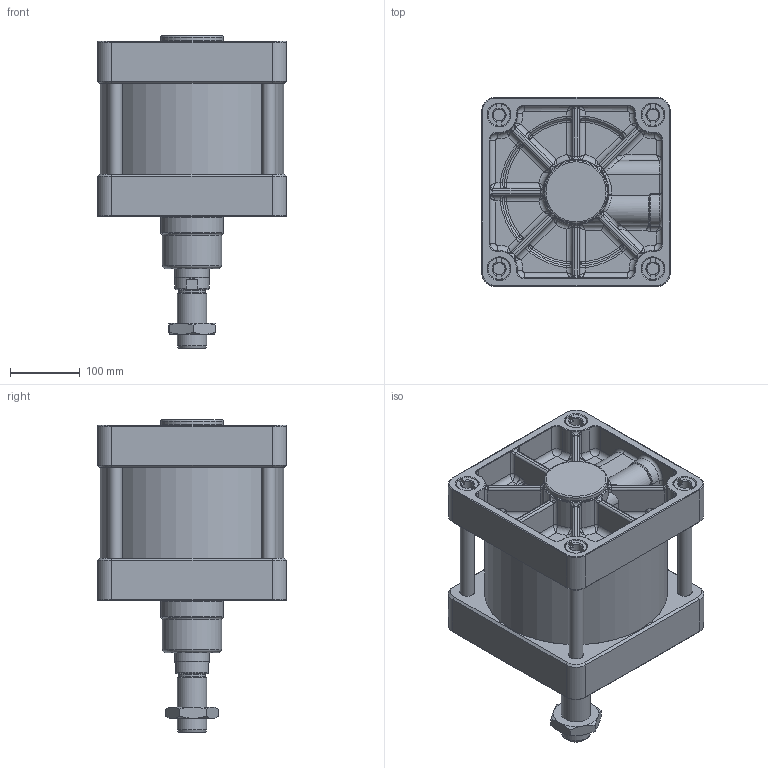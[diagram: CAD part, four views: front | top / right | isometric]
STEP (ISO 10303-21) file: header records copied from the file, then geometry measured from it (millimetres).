
FILE_DESCRIPTION(/* description */ ('Unknown'),/* implementation_level */ '2;1');
FILE_NAME(/* name */ 'UDM 250_50',/* time_stamp */ '2024-08-15T13:47:20+02:00',/* author */ ('Unknown'),/* organization */ ('Unknown'),/* preprocessor_version */ 'ST-DEVELOPER v16.7',/* originating_system */ 'Solid Edge',/* authorisation */ 'Unknown');
FILE_SCHEMA (('AUTOMOTIVE_DESIGN {1 0 10303 214 3 1 1}'));
Length unit declared in the file: millimetre
Products named in the file (7): UDM 250_50; Kit_1; Profilrohr 250_50; Zugstange 250_50; Kit_2; Mutter; Kolbenstange 250_50
Assembly tree (9 placements, depth 2):
  UDM 250_50
    Kit_1
    Profilrohr 250_50
    Zugstange 250_50  x4
    Kit_2
    Mutter
    Kolbenstange 250_50
Bounding box: 270 x 270 x 447 mm (x, y, z)
Volume: 10269325.6 mm3; surface area: 1169895.5 mm2
Topology: 9 solids, 13 shells, 1177 faces, 2799 edges, 1549 vertices
Faces by surface type: cylinder 364, plane 267, torus 191, bspline 186, cone 139, sphere 30
Full cylindrical faces by diameter (mm): 8 x2, 10 x2, 11 x2, 11.2 x2, 16 x2, 17.28 x8, 17.294 x8, 20 x4, 20.5 x8, 24 x2, 25 x2, 30.28 x2, 30.291 x2, 32 x8, 38.8 x1, 39.835 x1, 40 x2, 42 x1, 49 x1, 50 x3, 50.8 x1, 50.962 x1, 51 x2, 55 x1, 58 x1, 60 x2, 85 x1, 90 x2, 94 x1, 250 x2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
Entity records: 55891 total; most frequent: CARTESIAN_POINT 23983, ORIENTED_EDGE 5146, DIRECTION 4459, EDGE_CURVE 2573, AXIS2_PLACEMENT_3D 1834, VERTEX_POINT 1511, EDGE_LOOP 1268, FACE_BOUND 1268
